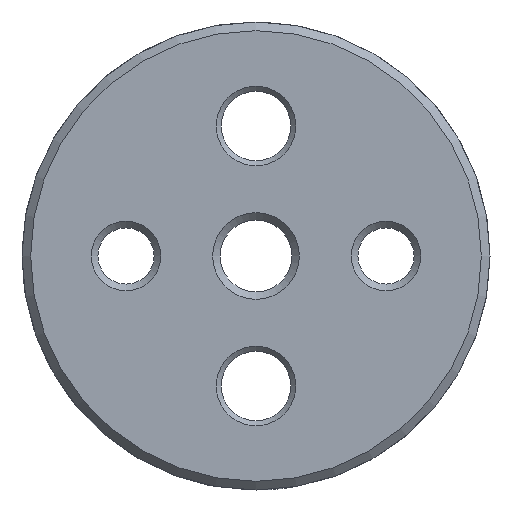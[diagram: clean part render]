
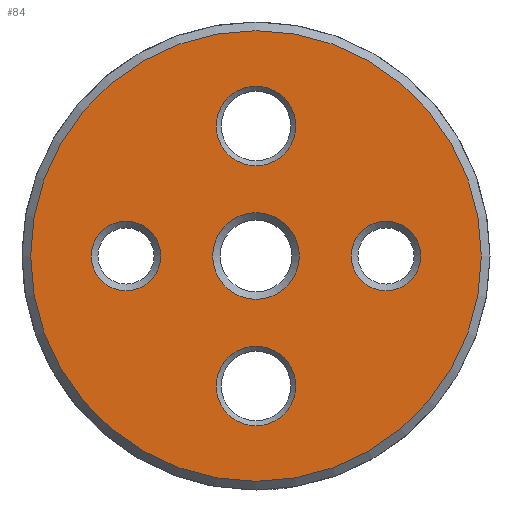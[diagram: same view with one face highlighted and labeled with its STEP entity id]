
A CAD part, front view. The second image highlights one B-rep face of the part: STEP entity #84.
In plain terms, the highlighted planar face has unit normal (0, -1, 0).
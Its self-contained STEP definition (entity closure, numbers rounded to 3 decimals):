
#84 = ADVANCED_FACE( '', ( #133, #134, #135, #136, #137, #138 ), #139, .F. );
#133 = FACE_BOUND( '', #223, .T. );
#134 = FACE_BOUND( '', #224, .T. );
#135 = FACE_BOUND( '', #225, .T. );
#136 = FACE_BOUND( '', #226, .T. );
#137 = FACE_BOUND( '', #227, .T. );
#138 = FACE_OUTER_BOUND( '', #228, .T. );
#139 = PLANE( '', #229 );
#223 = EDGE_LOOP( '', ( #362 ) );
#224 = EDGE_LOOP( '', ( #363 ) );
#225 = EDGE_LOOP( '', ( #364 ) );
#226 = EDGE_LOOP( '', ( #365 ) );
#227 = EDGE_LOOP( '', ( #366 ) );
#228 = EDGE_LOOP( '', ( #367 ) );
#229 = AXIS2_PLACEMENT_3D( '', #368, #369, #370 );
#362 = ORIENTED_EDGE( '', *, *, #528, .F. );
#363 = ORIENTED_EDGE( '', *, *, #529, .F. );
#364 = ORIENTED_EDGE( '', *, *, #530, .F. );
#365 = ORIENTED_EDGE( '', *, *, #531, .F. );
#366 = ORIENTED_EDGE( '', *, *, #532, .F. );
#367 = ORIENTED_EDGE( '', *, *, #527, .T. );
#368 = CARTESIAN_POINT( '', ( 13., 0., 0. ) );
#369 = DIRECTION( '', ( 0., 1., 0. ) );
#370 = DIRECTION( '', ( 0., 0., 1. ) );
#527 = EDGE_CURVE( '', #611, #611, #612, .T. );
#528 = EDGE_CURVE( '', #613, #613, #614, .T. );
#529 = EDGE_CURVE( '', #615, #615, #616, .F. );
#530 = EDGE_CURVE( '', #617, #617, #618, .T. );
#531 = EDGE_CURVE( '', #619, #619, #620, .T. );
#532 = EDGE_CURVE( '', #621, #621, #622, .T. );
#611 = VERTEX_POINT( '', #818 );
#612 = CIRCLE( '', #819, 13. );
#613 = VERTEX_POINT( '', #820 );
#614 = CIRCLE( '', #821, 2.5 );
#615 = VERTEX_POINT( '', #822 );
#616 = CIRCLE( '', #823, 2. );
#617 = VERTEX_POINT( '', #824 );
#618 = CIRCLE( '', #825, 2.3 );
#619 = VERTEX_POINT( '', #826 );
#620 = CIRCLE( '', #827, 2.3 );
#621 = VERTEX_POINT( '', #828 );
#622 = CIRCLE( '', #829, 2. );
#818 = CARTESIAN_POINT( '', ( 0., 0., -13. ) );
#819 = AXIS2_PLACEMENT_3D( '', #931, #932, #933 );
#820 = CARTESIAN_POINT( '', ( 0., 0., -2.5 ) );
#821 = AXIS2_PLACEMENT_3D( '', #934, #935, #936 );
#822 = CARTESIAN_POINT( '', ( 7.5, 0., 2. ) );
#823 = AXIS2_PLACEMENT_3D( '', #937, #938, #939 );
#824 = CARTESIAN_POINT( '', ( 0., 0., 5.2 ) );
#825 = AXIS2_PLACEMENT_3D( '', #940, #941, #942 );
#826 = CARTESIAN_POINT( '', ( 0., 0., -9.8 ) );
#827 = AXIS2_PLACEMENT_3D( '', #943, #944, #945 );
#828 = CARTESIAN_POINT( '', ( -7.5, 0., -2. ) );
#829 = AXIS2_PLACEMENT_3D( '', #946, #947, #948 );
#931 = CARTESIAN_POINT( '', ( 0., 0., 0. ) );
#932 = DIRECTION( '', ( 0., -1., 0. ) );
#933 = DIRECTION( '', ( 0., 0., -1. ) );
#934 = CARTESIAN_POINT( '', ( 0., 0., 0. ) );
#935 = DIRECTION( '', ( 0., -1., 0. ) );
#936 = DIRECTION( '', ( 0., 0., -1. ) );
#937 = CARTESIAN_POINT( '', ( 7.5, 0., 0. ) );
#938 = DIRECTION( '', ( 0., 1., 0. ) );
#939 = DIRECTION( '', ( 0., 0., 1. ) );
#940 = CARTESIAN_POINT( '', ( 0., 0., 7.5 ) );
#941 = DIRECTION( '', ( 0., -1., 0. ) );
#942 = DIRECTION( '', ( 0., 0., -1. ) );
#943 = CARTESIAN_POINT( '', ( 0., 0., -7.5 ) );
#944 = DIRECTION( '', ( 0., -1., 0. ) );
#945 = DIRECTION( '', ( 0., 0., -1. ) );
#946 = CARTESIAN_POINT( '', ( -7.5, 0., 0. ) );
#947 = DIRECTION( '', ( 0., -1., 0. ) );
#948 = DIRECTION( '', ( 0., 0., -1. ) );
